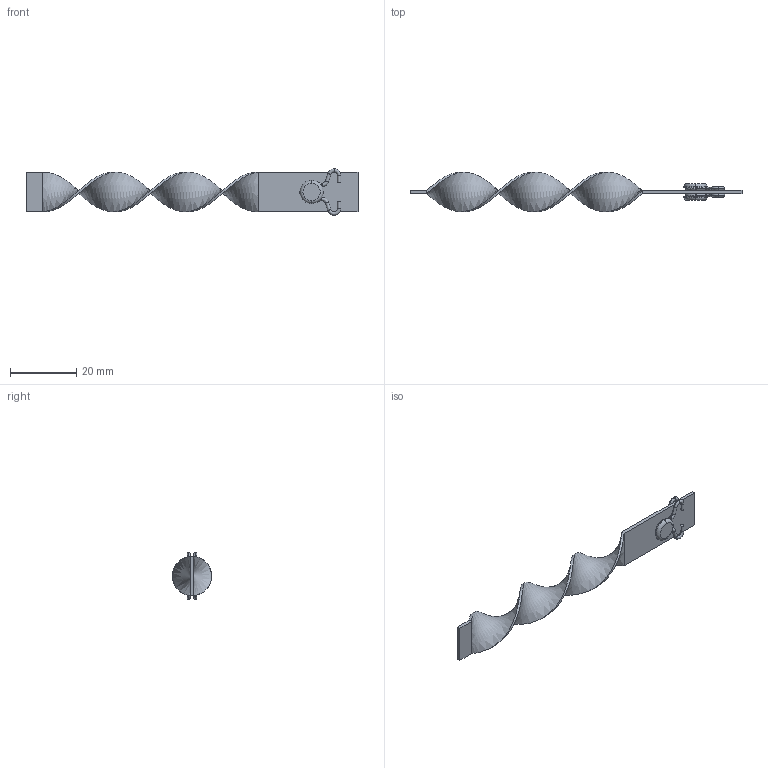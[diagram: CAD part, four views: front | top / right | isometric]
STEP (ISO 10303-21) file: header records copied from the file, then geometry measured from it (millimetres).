
FILE_DESCRIPTION (( 'STEP AP203' ), '1' );
FILE_NAME ('RLAS-12x100.STEP', '2016-02-11T16:19:05', ( 'Balzi' ), ( '' ), 'SwSTEP 2.0', 'SolidWorks 2015', '' );
FILE_SCHEMA (( 'CONFIG_CONTROL_DESIGN' ));
Length unit declared in the file: millimetre
Products named in the file (1): RLAS-12x100
Bounding box: 100 x 11.85 x 13.99 mm (x, y, z)
Volume: 1298.8 mm3; surface area: 3161.7 mm2
Topology: 5 solids, 5 shells, 92 faces, 178 edges, 96 vertices
Faces by surface type: torus 40, cylinder 30, plane 18, bspline 4
Entity records: 3307 total; most frequent: CARTESIAN_POINT 1319, DIRECTION 468, ORIENTED_EDGE 356, AXIS2_PLACEMENT_3D 209, EDGE_CURVE 178, CIRCLE 120, VERTEX_POINT 96, EDGE_LOOP 94
